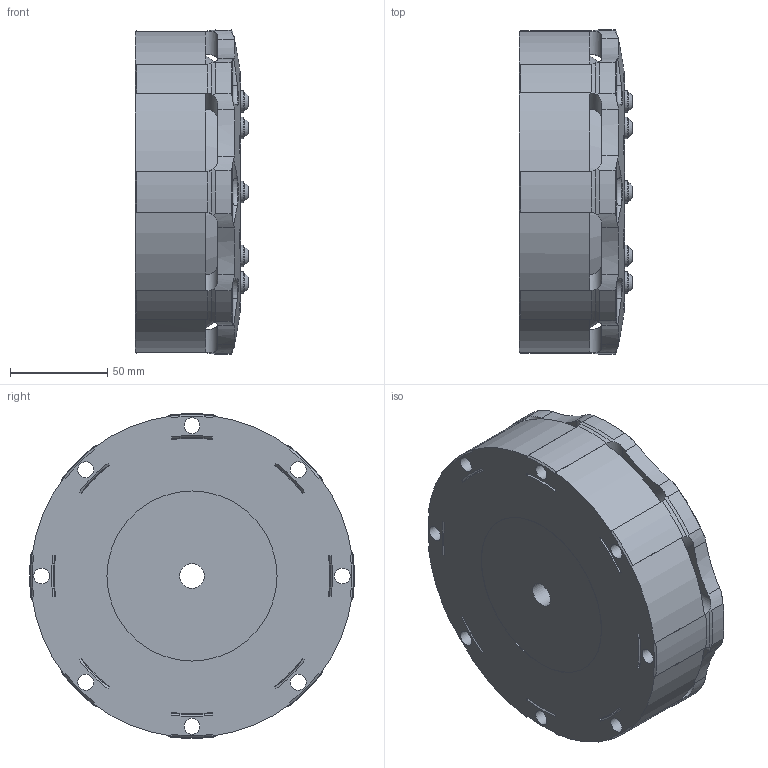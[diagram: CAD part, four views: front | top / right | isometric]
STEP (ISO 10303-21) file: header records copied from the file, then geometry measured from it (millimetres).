
FILE_DESCRIPTION(/* description */ ('Unknown'),/* implementation_level */ '2;1');
FILE_NAME(/* name */ '6554MHG-P',/* time_stamp */ '2018-07-19T08:48:37-07:00',/* author */ ('Unknown'),/* organization */ ('Unknown'),/* preprocessor_version */ 'ST-DEVELOPER v16.7',/* originating_system */ 'DEX',/* authorisation */ $);
FILE_SCHEMA (('AP242_MANAGED_MODEL_BASED_3D_ENGINEERING_MIM_LF { 1 0 10303 442 1 1 4 }','AUTOMOTIVE_DESIGN {1 0 10303 214 3 1 1}'));
Length unit declared in the file: millimetre
Products named in the file (1): 6554MHG-P
Bounding box: 58.38 x 166.79 x 166.79 mm (x, y, z)
Volume: 943989.8 mm3; surface area: 138325.6 mm2
Topology: 1 solids, 1 shells, 857 faces, 2516 edges, 1666 vertices
Faces by surface type: cylinder 428, plane 353, cone 42, torus 34
Full cylindrical faces by diameter (mm): 0.508 x8, 8.077 x8, 9.169 x8, 11.176 x8, 12.7 x1, 76.162 x1, 87.376 x2
Entity records: 29028 total; most frequent: CARTESIAN_POINT 6154, ORIENTED_EDGE 4898, DIRECTION 4736, EDGE_CURVE 2449, AXIS2_PLACEMENT_3D 1765, VERTEX_POINT 1655, LINE 1206, VECTOR 1206
